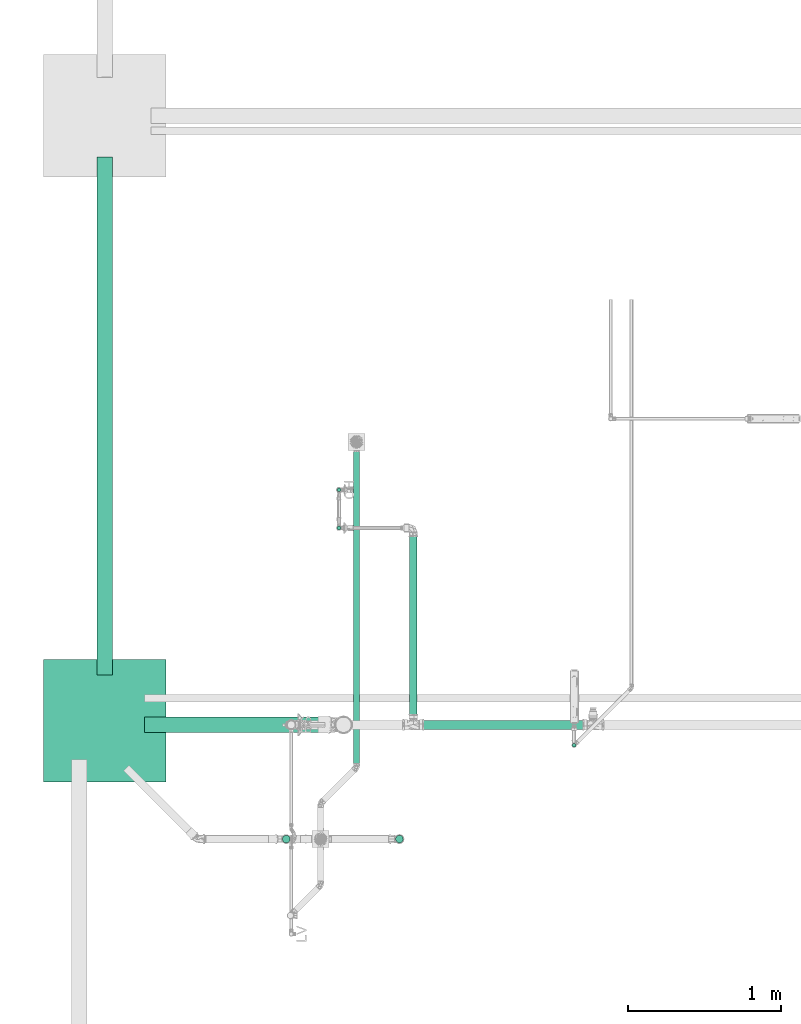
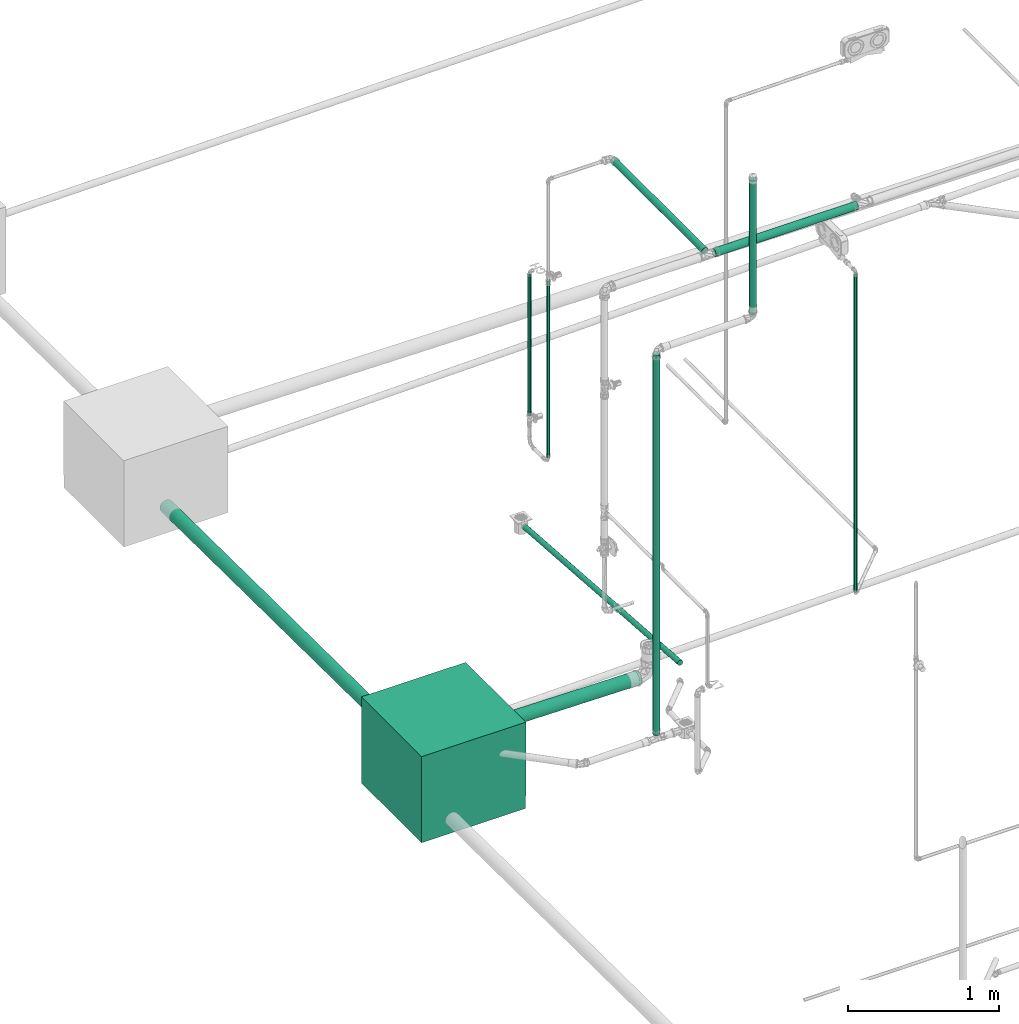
# One storey, part 7 of 589: 10 flow segments, 1 flow terminal.
"""IFC2X3 building model written with IfcOpenShell, lengths in millimetres."""

from ifc_helpers import new_model, entity, si_unit, converted_unit, derived_unit, direction, frame, frame_2d, origin, origin_2d_with_axis, place, context, subcontext, project, spatial, polyline, rectangle, circle, outline, extrude, source, transform, mapped, material, material_list, type_object, type_shapes, element, save


model = new_model("IFC2X3")

# Units and contexts
model_context = context("Model", 3, precision=0.01, world=origin(), true_north=direction((6.123031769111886e-17, 1.0)))
body_context = subcontext(model_context, "Body", "Model", "MODEL_VIEW")
ifc_project = project(units=[si_unit("LENGTHUNIT", "METRE", prefix="MILLI"), si_unit("AREAUNIT", "SQUARE_METRE"), si_unit("VOLUMEUNIT", "CUBIC_METRE"), converted_unit("PLANEANGLEUNIT", "DEGREE", entity("IfcRatioMeasure", 0.017453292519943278), si_unit("PLANEANGLEUNIT", "RADIAN"), dimensions=[0, 0, 0, 0, 0, 0, 0]), si_unit("MASSUNIT", "GRAM", prefix="KILO"), derived_unit("MASSDENSITYUNIT", [(si_unit("MASSUNIT", "GRAM", prefix="KILO"), 1), (si_unit("LENGTHUNIT", "METRE"), -3)]), derived_unit("IONCONCENTRATIONUNIT", [(si_unit("MASSUNIT", "GRAM", prefix="KILO"), 1), (si_unit("LENGTHUNIT", "METRE"), -3)]), derived_unit("MOMENTOFINERTIAUNIT", [(si_unit("LENGTHUNIT", "METRE"), 4)]), si_unit("TIMEUNIT", "SECOND"), si_unit("FREQUENCYUNIT", "HERTZ"), si_unit("THERMODYNAMICTEMPERATUREUNIT", "DEGREE_CELSIUS"), derived_unit("THERMALTRANSMITTANCEUNIT", [(si_unit("MASSUNIT", "GRAM", prefix="KILO"), 1), (si_unit("THERMODYNAMICTEMPERATUREUNIT", "KELVIN"), -1), (si_unit("TIMEUNIT", "SECOND"), -3)]), derived_unit("THERMALCONDUCTANCEUNIT", [(si_unit("MASSUNIT", "GRAM", prefix="KILO"), 1), (si_unit("THERMODYNAMICTEMPERATUREUNIT", "KELVIN"), -1), (si_unit("TIMEUNIT", "SECOND"), -3), (si_unit("LENGTHUNIT", "METRE"), 1)]), derived_unit("VOLUMETRICFLOWRATEUNIT", [(si_unit("LENGTHUNIT", "METRE"), 3), (si_unit("TIMEUNIT", "SECOND"), -1)]), derived_unit("MASSFLOWRATEUNIT", [(si_unit("MASSUNIT", "GRAM", prefix="KILO"), 1), (si_unit("TIMEUNIT", "SECOND"), -1)]), derived_unit("ROTATIONALFREQUENCYUNIT", [(si_unit("TIMEUNIT", "SECOND"), -1)]), si_unit("ELECTRICCURRENTUNIT", "AMPERE"), si_unit("ELECTRICVOLTAGEUNIT", "VOLT"), si_unit("POWERUNIT", "WATT"), si_unit("FORCEUNIT", "NEWTON", prefix="KILO"), si_unit("ILLUMINANCEUNIT", "LUX"), si_unit("LUMINOUSFLUXUNIT", "LUMEN"), si_unit("LUMINOUSINTENSITYUNIT", "CANDELA"), derived_unit("USERDEFINED", [(si_unit("MASSUNIT", "GRAM", prefix="KILO"), -1), (si_unit("LENGTHUNIT", "METRE"), -2), (si_unit("TIMEUNIT", "SECOND"), 3), (si_unit("LUMINOUSFLUXUNIT", "LUMEN"), 1)]), derived_unit("USERDEFINED", [(si_unit("MASSUNIT", "GRAM", prefix="KILO"), 1), (si_unit("TIMEUNIT", "SECOND"), -3), (si_unit("LENGTHUNIT", "METRE"), 3), (si_unit("ELECTRICCURRENTUNIT", "AMPERE"), -2)]), derived_unit("SOUNDPOWERUNIT", [(si_unit("MASSUNIT", "GRAM", prefix="KILO"), 1), (si_unit("TIMEUNIT", "SECOND"), -3), (si_unit("LENGTHUNIT", "METRE"), 2)]), derived_unit("SOUNDPRESSUREUNIT", [(si_unit("MASSUNIT", "GRAM", prefix="KILO"), 1), (si_unit("LENGTHUNIT", "METRE"), -1), (si_unit("TIMEUNIT", "SECOND"), -2)]), derived_unit("LINEARVELOCITYUNIT", [(si_unit("LENGTHUNIT", "METRE"), 1), (si_unit("TIMEUNIT", "SECOND"), -1)]), si_unit("PRESSUREUNIT", "PASCAL"), derived_unit("USERDEFINED", [(si_unit("MASSUNIT", "GRAM", prefix="KILO"), 1), (si_unit("LENGTHUNIT", "METRE"), -2), (si_unit("TIMEUNIT", "SECOND"), -2)]), derived_unit("LINEARFORCEUNIT", [(si_unit("MASSUNIT", "GRAM", prefix="KILO"), 1), (si_unit("TIMEUNIT", "SECOND"), -2)]), derived_unit("PLANARFORCEUNIT", [(si_unit("MASSUNIT", "GRAM", prefix="KILO"), 1), (si_unit("LENGTHUNIT", "METRE"), -1), (si_unit("TIMEUNIT", "SECOND"), -2)]), derived_unit("SPECIFICHEATCAPACITYUNIT", [(si_unit("THERMODYNAMICTEMPERATUREUNIT", "KELVIN"), -1), (si_unit("LENGTHUNIT", "METRE"), 2), (si_unit("TIMEUNIT", "SECOND"), -2)]), derived_unit("HEATINGVALUEUNIT", [(si_unit("LENGTHUNIT", "METRE"), 2), (si_unit("TIMEUNIT", "SECOND"), -2)]), derived_unit("VAPORPERMEABILITYUNIT", [(si_unit("LENGTHUNIT", "METRE"), -1), (si_unit("TIMEUNIT", "SECOND"), 1)]), derived_unit("DYNAMICVISCOSITYUNIT", [(si_unit("MASSUNIT", "GRAM", prefix="KILO"), 1), (si_unit("TIMEUNIT", "SECOND"), -1), (si_unit("LENGTHUNIT", "METRE"), -1)]), derived_unit("THERMALEXPANSIONCOEFFICIENTUNIT", [(si_unit("THERMODYNAMICTEMPERATUREUNIT", "KELVIN"), -1)]), derived_unit("MODULUSOFELASTICITYUNIT", [(si_unit("MASSUNIT", "GRAM", prefix="KILO"), 1), (si_unit("LENGTHUNIT", "METRE"), -1), (si_unit("TIMEUNIT", "SECOND"), -2)]), derived_unit("ISOTHERMALMOISTURECAPACITYUNIT", [(si_unit("LENGTHUNIT", "METRE"), 3), (si_unit("MASSUNIT", "GRAM", prefix="KILO"), -1)]), derived_unit("MOISTUREDIFFUSIVITYUNIT", [(si_unit("TIMEUNIT", "SECOND"), -1), (si_unit("LENGTHUNIT", "METRE"), 2)])], contexts=[model_context])

# Site, building, storey
site_placement = place(None, origin())
site = spatial("IfcSite", under=ifc_project, at=site_placement, Name="Default", CompositionType="ELEMENT")
building_placement = place(site_placement, origin())
building = spatial("IfcBuilding", under=site, at=building_placement, CompositionType="ELEMENT")
storey_placement = place(building_placement, frame((0.0, 0.0, 100.0)))
storey = spatial("IfcBuildingStorey", under=building, at=storey_placement, Name="TÉRREO", CompositionType="ELEMENT", Elevation=100.0)

# Flow segments
pipe_segment_type_1 = type_object("IfcPipeSegmentType", Name="Tipos de tubos:PVC Esgoto Série Normal", PredefinedType="NOTDEFINED")
flow_segment_1_placement = place(storey_placement, origin())
element("IfcFlowSegment", 1, at=flow_segment_1_placement, inside=storey, type_object=pipe_segment_type_1, Name="Tipos de tubos:PVC Esgoto Série Normal", ObjectType="Tipos de tubos:PVC Esgoto Série Normal", context=body_context, shape_type="SweptSolid", body=[
    extrude(circle(Radius=50.0, at=frame_2d((6.767919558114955e-14, -3.383790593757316e-14), x_axis=(1.0, 0.0))), frame((-8520.947357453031, -528.9241377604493, -231.27796087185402), z_axis=(0.9999500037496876, 0.0, -0.009999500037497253), x_axis=(0.0, 1.0, 0.0)), (0.0, 0.0, 1.0), 1216.7161000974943),
])
flow_segment_2_placement = place(storey_placement, origin())
element("IfcFlowSegment", 2, at=flow_segment_2_placement, inside=storey, type_object=pipe_segment_type_1, Name="Tipos de tubos:PVC Esgoto Série Normal", ObjectType="Tipos de tubos:PVC Esgoto Série Normal", context=body_context, shape_type="SweptSolid", body=[
    extrude(circle(Radius=20.0, at=origin_2d_with_axis()), frame((-7135.347509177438, 1270.7507213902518, -170.3202912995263), z_axis=(0.0, -0.9973745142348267, 0.07241600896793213), x_axis=(-1.0, 0.0, 0.0)), (0.0, 0.0, 1.0), 2071.365187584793),
])
flow_segment_3_placement = place(storey_placement, origin())
element("IfcFlowSegment", 3, at=flow_segment_3_placement, inside=storey, type_object=pipe_segment_type_1, Name="Tipos de tubos:PVC Esgoto Série Normal", ObjectType="Tipos de tubos:PVC Esgoto Série Normal", context=body_context, shape_type="SweptSolid", body=[
    extrude(circle(Radius=50.0, at=frame_2d((1.0828671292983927e-12, -6.767579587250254e-14), x_axis=(1.0, 0.0))), frame((-8781.419732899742, -202.6818709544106, -550.0), z_axis=(0.0, 0.9999497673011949, -0.010023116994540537), x_axis=(1.0, 0.0, 0.0)), (0.0, 0.0, 1.0), 3385.000000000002),
])
flow_segment_4_placement = place(storey_placement, origin())
element("IfcFlowSegment", 4, at=flow_segment_4_placement, inside=storey, type_object=pipe_segment_type_1, Name="Tipos de tubos:PVC Esgoto Série Normal", ObjectType="Tipos de tubos:PVC Esgoto Série Normal", context=body_context, shape_type="SweptSolid", body=[
    extrude(circle(Radius=25.0, at=origin_2d_with_axis()), frame((-7595.230999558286, -1275.6092449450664, -143.07652706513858), z_axis=(0.0, 0.0, 1.0), x_axis=(-1.0, 0.0, 0.0)), (0.0, 0.0, 1.0), 3084.412204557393),
])
flow_segment_5_placement = place(storey_placement, origin())
element("IfcFlowSegment", 5, at=flow_segment_5_placement, inside=storey, type_object=pipe_segment_type_1, Name="Tipos de tubos:PVC Esgoto Série Normal", ObjectType="Tipos de tubos:PVC Esgoto Série Normal", context=body_context, shape_type="SweptSolid", body=[
    extrude(circle(Radius=25.0, at=origin_2d_with_axis()), frame((-6855.178534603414, -1275.6092449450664, 3010.6182774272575), z_axis=(0.0, 0.0, 1.0), x_axis=(-1.0, 0.0, 0.0)), (0.0, 0.0, 1.0), 1087.1587000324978),
])
pipe_segment_type_2 = type_object("IfcPipeSegmentType", Name="Tipos de tubos:PVC Marrom Soldável", PredefinedType="NOTDEFINED")
flow_segment_6_placement = place(storey_placement, origin())
element("IfcFlowSegment", 6, at=flow_segment_6_placement, inside=storey, type_object=pipe_segment_type_2, Name="Tipos de tubos:PVC Marrom Soldável", ObjectType="Tipos de tubos:PVC Marrom Soldável", context=body_context, shape_type="SweptSolid", body=[
    extrude(circle(Radius=12.5, at=origin_2d_with_axis()), frame((-7250.812352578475, 758.1190686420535, 746.9900000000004), z_axis=(0.0, 0.0, 1.0), x_axis=(-1.0, 0.0, 0.0)), (0.0, 0.0, 1.0), 1433.0099999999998),
])
flow_segment_7_placement = place(storey_placement, origin())
element("IfcFlowSegment", 7, at=flow_segment_7_placement, inside=storey, type_object=pipe_segment_type_2, Name="Tipos de tubos:PVC Marrom Soldável", ObjectType="Tipos de tubos:PVC Marrom Soldável", context=body_context, shape_type="SweptSolid", body=[
    extrude(circle(Radius=12.5, at=origin_2d_with_axis()), frame((-7250.812352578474, 1007.7159451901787, 936.4999978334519)), (0.0, 0.0, 1.0), 1147.2000021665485),
])
flow_segment_8_placement = place(storey_placement, origin())
element("IfcFlowSegment", 8, at=flow_segment_8_placement, inside=storey, type_object=pipe_segment_type_2, Name="Tipos de tubos:PVC Marrom Soldável", ObjectType="Tipos de tubos:PVC Marrom Soldável", context=body_context, shape_type="SweptSolid", body=[
    extrude(circle(Radius=25.0, at=origin_2d_with_axis()), frame((-6764.2704908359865, -480.9241377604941, 3000.0), z_axis=(0.0, 1.0, 0.0), x_axis=(1.0, 0.0, 0.0)), (0.0, 0.0, 1.0), 1209.9432064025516),
])
flow_segment_9_placement = place(storey_placement, origin())
element("IfcFlowSegment", 9, at=flow_segment_9_placement, inside=storey, type_object=pipe_segment_type_2, Name="Tipos de tubos:PVC Marrom Soldável", ObjectType="Tipos de tubos:PVC Marrom Soldável", context=body_context, shape_type="SweptSolid", body=[
    extrude(circle(Radius=12.5, at=origin_2d_with_axis()), frame((-5713.364418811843, -662.6953290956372, -20.759701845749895)), (0.0, 0.0, 1.0), 2580.5894457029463),
])
flow_segment_10_placement = place(storey_placement, origin())
element("IfcFlowSegment", 10, at=flow_segment_10_placement, inside=storey, type_object=pipe_segment_type_2, Name="Tipos de tubos:PVC Marrom Soldável", ObjectType="Tipos de tubos:PVC Marrom Soldável", context=body_context, shape_type="SweptSolid", body=[
    extrude(circle(Radius=30.0, at=frame_2d((6.767919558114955e-14, 0.0), x_axis=(1.0, 0.0))), frame((-6723.370490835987, -528.924137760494, 3000.0), z_axis=(1.0, 0.0, 0.0), x_axis=(0.0, -1.0, 0.0)), (0.0, 0.0, 1.0), 1093.246577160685),
])

# Flow terminal
ifc_material_1 = material(Name="<Unnamed>")
ifc_material_2 = material(Name="Tijolo, Comum")
ifc_material_3 = material(Name=".CONCRETO")
ifc_material_list = material_list([ifc_material_1, ifc_material_2, ifc_material_3])
distribution_element_type = type_object("IfcDistributionElementType", Name="Caixa em Alvenaria_Rodrigo MEP:Caixa de Inspeçao de Esgoto 60x60cm - CI", material=ifc_material_list)
shared_shape = source(origin(), body_context, "Body", "SweptSolid", [
    extrude(circle(Radius=50.0, at=frame_2d((1.6919798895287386e-14, -2.0303758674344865e-13), x_axis=(1.0, 0.0))), frame((297.0, -150.0, -550.0), z_axis=(1.0, 0.0, 0.0), x_axis=(0.0, -1.0, 0.0)), (0.0, 0.0, 1.0), 2.9999999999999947),
    extrude(circle(Radius=50.0, at=frame_2d((0.0, -2.0303758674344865e-13), x_axis=(1.0, 0.0))), frame((297.0, 150.0, -550.0), z_axis=(1.0, 0.0, 0.0), x_axis=(0.0, -1.0, 0.0)), (0.0, 0.0, 1.0), 2.9999999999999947),
    extrude(circle(Radius=50.0, at=frame_2d((0.0, -6.767919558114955e-14), x_axis=(1.0, 0.0))), frame((-300.0, 136.27378055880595, -550.0), z_axis=(1.0, 0.0, 0.0), x_axis=(0.0, 1.0, 0.0)), (0.0, 0.0, 1.0), 2.9999999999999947),
    extrude(circle(Radius=50.0, at=frame_2d((-1.6919798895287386e-14, -6.767919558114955e-14), x_axis=(1.0, 0.0))), frame((-300.0, -150.0, -550.0), z_axis=(1.0, 0.0, 0.0), x_axis=(0.0, 1.0, 0.0)), (0.0, 0.0, 1.0), 2.9999999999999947),
    extrude(circle(Radius=50.0, at=frame_2d((-1.6919798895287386e-14, -2.707167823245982e-13), x_axis=(1.0, 0.0))), frame((150.0, 297.0, -550.0), z_axis=(0.0, 1.0, 0.0), x_axis=(1.0, 0.0, 0.0)), (0.0, 0.0, 1.0), 2.9999999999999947),
    extrude(circle(Radius=50.0, at=frame_2d((0.0, -2.707167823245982e-13), x_axis=(1.0, 0.0))), frame((-150.0, 297.0, -550.0), z_axis=(0.0, 1.0, 0.0), x_axis=(1.0, 0.0, 0.0)), (0.0, 0.0, 1.0), 2.9999999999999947),
    extrude(circle(Radius=50.0, at=frame_2d((-1.307310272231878e-17, -2.707167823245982e-13), x_axis=(1.0, 0.0))), frame((297.0, 0.0, -550.0), z_axis=(1.0, 0.0, 0.0), x_axis=(0.0, -1.0, 0.0)), (0.0, 0.0, 1.0), 2.9999999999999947),
    extrude(circle(Radius=50.0, at=frame_2d((1.9003610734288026e-15, -6.767919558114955e-14), x_axis=(1.0, 0.0))), frame((-300.0, 0.0, -550.0), z_axis=(1.0, 0.0, 0.0), x_axis=(0.0, 1.0, 0.0)), (0.0, 0.0, 1.0), 2.9999999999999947),
    extrude(circle(Radius=50.0, at=frame_2d((-1.9105340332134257e-15, -2.707167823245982e-13), x_axis=(1.0, 0.0))), frame((0.0, 297.0, -550.0), z_axis=(0.0, 1.0, 0.0), x_axis=(1.0, 0.0, 0.0)), (0.0, 0.0, 1.0), 2.9999999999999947),
    extrude(outline(polyline([(-400.0, -400.0), (400.0, -400.0), (400.0, 400.0), (-400.0, 400.0), (-400.0, -400.0)]), holes=[polyline([(-300.0, 300.0), (300.0, 300.0), (300.0, -300.0), (-300.0, -300.0), (-300.0, 300.0)])]), frame((0.0, 0.0, -600.0)), (0.0, 0.0, 1.0), 599.9999999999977),
    extrude(rectangle(XDim=798.0000000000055, YDim=798.0, at=origin_2d_with_axis()), frame((0.0, 0.0, -700.0), z_axis=(0.0, 0.0, 1.0), x_axis=(-1.0, 0.0, 0.0)), (0.0, 0.0, 1.0), 99.99999999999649),
    extrude(circle(Radius=50.0, at=frame_2d((0.0, -2.707167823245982e-13), x_axis=(1.0, 0.0))), frame((0.0, -300.0, -550.0), z_axis=(0.0, 1.0, 0.0), x_axis=(1.0, 0.0, 0.0)), (0.0, 0.0, 1.0), 0.9999999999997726),
    extrude(rectangle(XDim=599.9999999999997, YDim=599.9999999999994, at=origin_2d_with_axis()), frame((0.0, 0.0, -50.51158969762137), z_axis=(0.0, 0.0, 1.0), x_axis=(0.0, 1.0, 0.0)), (0.0, 0.0, 1.0), 50.51158969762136),
])
type_shapes(distribution_element_type, [shared_shape])
flow_terminal_placement = place(storey_placement, frame((-8781.419732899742, -502.6818709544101, 0.0), z_axis=(0.0, 0.0, 1.0), x_axis=(-1.0, 0.0, 0.0)))
element("IfcFlowTerminal", 11, at=flow_terminal_placement, inside=storey, type_object=distribution_element_type, material=ifc_material_list, Name="Caixa em Alvenaria_Rodrigo MEP:Caixa de Inspeçao de Esgoto 60x60cm - CI", ObjectType="Caixa em Alvenaria_Rodrigo MEP:Caixa de Inspeçao de Esgoto 60x60cm - CI", context=body_context, shape_type="MappedRepresentation", body=[
    mapped(shared_shape, transform((0.0, 0.0, 0.0), scale=1.0)),
])

save(model, "model.ifc")
